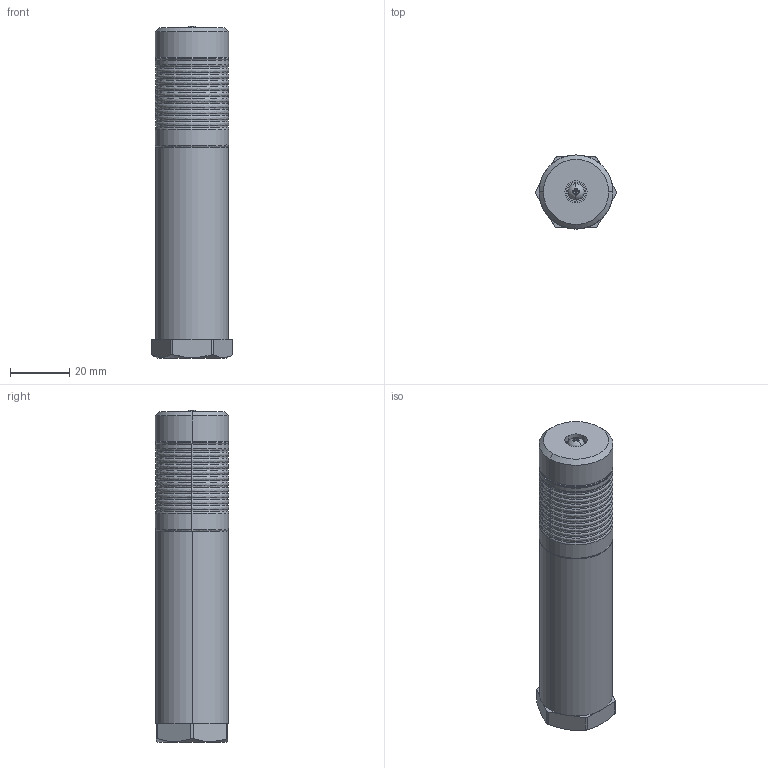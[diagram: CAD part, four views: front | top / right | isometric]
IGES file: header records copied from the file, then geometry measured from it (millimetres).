
Start section: IGES file generated by C3D Converter 1.6 translator by C3D Labs., translator version IGESOUT-5.1.
Global section: file name: HC:\Users\沓膼\OneDrive\Desktop\欙鵳醆TL25-024-RYG\TL25-024-R.igs; preprocessor: 1.0; author: 沓膼,7; organization: Hunknown; date: -17760624:194636; units: millimetre
Bounding box: 27.3 x 25 x 112.22 mm (x, y, z)
Volume: 32059.7 mm3; surface area: 19470.2 mm2
Topology: 8 solids, 8 shells, 135 faces, 298 edges, 178 vertices
Faces by surface type: revolution 94, bspline 41
